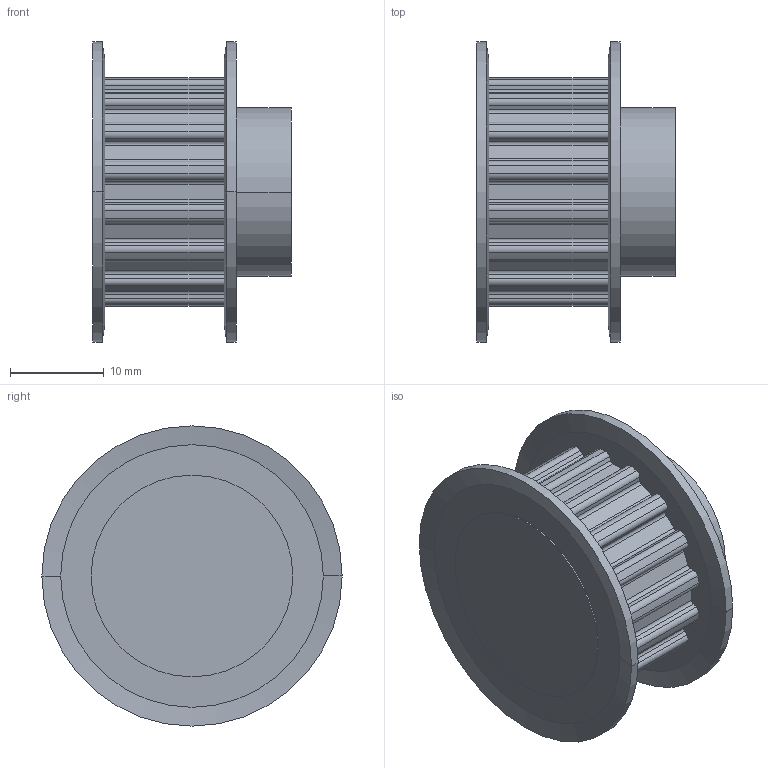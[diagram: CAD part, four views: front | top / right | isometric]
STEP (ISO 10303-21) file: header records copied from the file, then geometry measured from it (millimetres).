
FILE_DESCRIPTION( ( '' ), '1' );
FILE_NAME( 'C:/Users/Stangenbergd/Documents/CAD_Step/1/16221600.stp', '2021-10-19T08:41:47', ( '' ), ( '' ), ' ', ' ', ' ' );
FILE_SCHEMA( ( 'CONFIG_CONTROL_DESIGN' ) );
Length unit declared in the file: millimetre
Products named in the file (1): 1
Bounding box: 21.13 x 32 x 32 mm (x, y, z)
Volume: 8642.5 mm3; surface area: 4153.9 mm2
Topology: 1 solids, 1 shells, 153 faces, 430 edges, 284 vertices
Faces by surface type: cylinder 90, plane 55, cone 8
Entity records: 5052 total; most frequent: DIRECTION 926, CARTESIAN_POINT 868, ORIENTED_EDGE 860, EDGE_CURVE 430, AXIS2_PLACEMENT_3D 342, VERTEX_POINT 284, LINE 242, VECTOR 242
